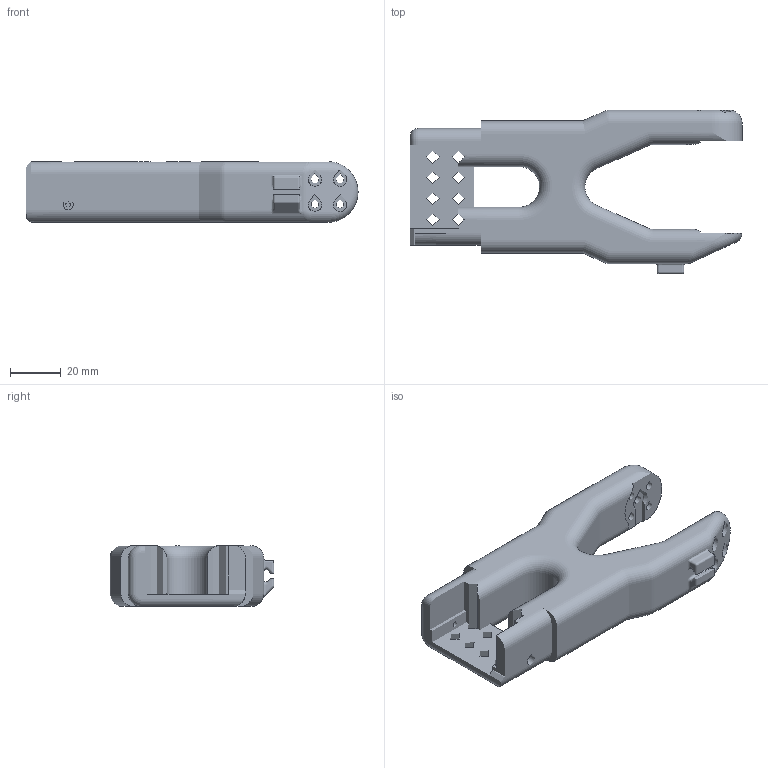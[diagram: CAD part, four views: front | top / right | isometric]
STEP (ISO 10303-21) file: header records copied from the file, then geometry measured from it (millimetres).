
FILE_DESCRIPTION(/* description */ ('STEP AP242 Edition 2','CAx-IF Rec.Pracs.---Representation and Presentation of Product Manufacturing Information (PMI)---4.0---2014-10-13','CAx-IF Rec.Pracs.---3D Tessellated Geometry---0.4---2014-09-14','2;1','CAx-IF Rec.Pracs.---User Defined Attributes---1.5---2016-08-15'),/* implementation_level */ '2;1');
FILE_NAME(/* name */ 'BambuLabA1mini_Leader_SO101 - Part 10',/* time_stamp */ '2026-11-25T15:08:23Z',/* author */ (''),/* organization */ (''),/* preprocessor_version */ 'ST-DEVELOPER v20',/* originating_system */ 'ONSHAPE BY PTC INC, 1.224',/* authorisation */ ' ');
FILE_SCHEMA (('AP242_MANAGED_MODEL_BASED_3D_ENGINEERING_MIM_LF { 1 0 10303 442 3 1 4 }'));
Length unit declared in the file: metre
Products named in the file (1): Part 10
Bounding box: 130.7 x 64.4 x 24 mm (x, y, z)
Surface area: 22675.9 mm2 (no closed solid volume)
Topology: 0 solids, 1 shells, 1 faces, 0 edges, 0 vertices
Faces by surface type: other 1
Entity records: 38 total; most frequent: STYLED_ITEM 2, PRESENTATION_STYLE_ASSIGNMENT 2, SURFACE_STYLE_USAGE 2, SURFACE_SIDE_STYLE 2, SURFACE_STYLE_FILL_AREA 2, FILL_AREA_STYLE 2, FILL_AREA_STYLE_COLOUR 2, DIRECTION 2
